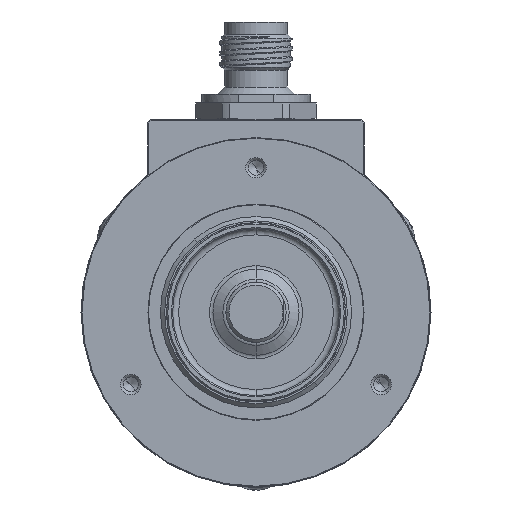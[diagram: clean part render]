
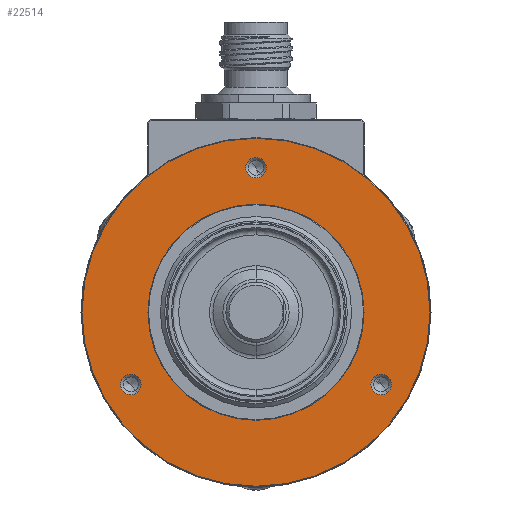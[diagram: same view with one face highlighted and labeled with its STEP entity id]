
A CAD part, front view. The second image highlights one B-rep face of the part: STEP entity #22514.
In plain terms, the highlighted planar face has unit normal (0, -1, 0).
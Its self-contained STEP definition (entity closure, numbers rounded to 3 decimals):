
#41 = CARTESIAN_POINT ( 'NONE',  ( 0., -7.5, 24. ) ) ;
#572 = CIRCLE ( 'NONE', #30910, 1.7 ) ;
#954 = DIRECTION ( 'NONE',  ( -0.643, 0., 0.766 ) ) ;
#1025 = EDGE_CURVE ( 'NONE', #28730, #26084, #25353, .T. ) ;
#1583 = DIRECTION ( 'NONE',  ( 0., 1., 0. ) ) ;
#3099 = DIRECTION ( 'NONE',  ( 0., -1., 0. ) ) ;
#3292 = DIRECTION ( 'NONE',  ( 0., -1., 0. ) ) ;
#4120 = EDGE_LOOP ( 'NONE', ( #11905, #29565 ) ) ;
#4205 = DIRECTION ( 'NONE',  ( -0.643, 0., 0.766 ) ) ;
#4651 = VERTEX_POINT ( 'NONE', #6739 ) ;
#4736 = FACE_BOUND ( 'NONE', #25406, .T. ) ;
#5064 = CARTESIAN_POINT ( 'NONE',  ( -19.692, -7.5, -13.302 ) ) ;
#5208 = CARTESIAN_POINT ( 'NONE',  ( 20.785, -7.5, -12. ) ) ;
#5748 = DIRECTION ( 'NONE',  ( -0.643, 0., 0.766 ) ) ;
#6048 = CIRCLE ( 'NONE', #7149, 28.9 ) ;
#6235 = CARTESIAN_POINT ( 'NONE',  ( 18.577, -7.5, -22.139 ) ) ;
#6351 = VERTEX_POINT ( 'NONE', #27760 ) ;
#6739 = CARTESIAN_POINT ( 'NONE',  ( -18.577, -7.5, 22.139 ) ) ;
#6769 = CARTESIAN_POINT ( 'NONE',  ( 19.692, -7.5, -10.698 ) ) ;
#7149 = AXIS2_PLACEMENT_3D ( 'NONE', #21054, #3292, #30852 ) ;
#7171 = AXIS2_PLACEMENT_3D ( 'NONE', #41, #25445, #14815 ) ;
#7371 = DIRECTION ( 'NONE',  ( 0.643, 0., -0.766 ) ) ;
#8036 = EDGE_CURVE ( 'NONE', #18024, #6351, #19904, .T. ) ;
#8047 = EDGE_CURVE ( 'NONE', #18236, #8886, #30813, .T. ) ;
#8330 = AXIS2_PLACEMENT_3D ( 'NONE', #14761, #29792, #7371 ) ;
#8886 = VERTEX_POINT ( 'NONE', #6769 ) ;
#8887 = EDGE_CURVE ( 'NONE', #19916, #25342, #572, .T. ) ;
#9149 = ORIENTED_EDGE ( 'NONE', *, *, #13639, .F. ) ;
#9559 = DIRECTION ( 'NONE',  ( 0., -1., 0. ) ) ;
#9626 = ORIENTED_EDGE ( 'NONE', *, *, #15494, .F. ) ;
#9841 = PLANE ( 'NONE',  #10589 ) ;
#10589 = AXIS2_PLACEMENT_3D ( 'NONE', #12769, #32411, #15415 ) ;
#11295 = CIRCLE ( 'NONE', #21263, 28.9 ) ;
#11426 = ORIENTED_EDGE ( 'NONE', *, *, #8047, .F. ) ;
#11905 = ORIENTED_EDGE ( 'NONE', *, *, #8036, .F. ) ;
#12168 = DIRECTION ( 'NONE',  ( 0.643, 0., -0.766 ) ) ;
#12769 = CARTESIAN_POINT ( 'NONE',  ( 22.215, -7.5, 18.641 ) ) ;
#13316 = DIRECTION ( 'NONE',  ( 0., 1., 0. ) ) ;
#13409 = DIRECTION ( 'NONE',  ( 0.643, 0., -0.766 ) ) ;
#13639 = EDGE_CURVE ( 'NONE', #8886, #18236, #15365, .T. ) ;
#13971 = EDGE_LOOP ( 'NONE', ( #11426, #9149 ) ) ;
#14198 = CARTESIAN_POINT ( 'NONE',  ( -1.093, -7.5, 25.302 ) ) ;
#14318 = AXIS2_PLACEMENT_3D ( 'NONE', #29538, #3099, #17959 ) ;
#14761 = CARTESIAN_POINT ( 'NONE',  ( -20.785, -7.5, -12. ) ) ;
#14815 = DIRECTION ( 'NONE',  ( 0.643, 0., -0.766 ) ) ;
#15295 = EDGE_CURVE ( 'NONE', #4651, #17832, #6048, .T. ) ;
#15365 = CIRCLE ( 'NONE', #14318, 1.7 ) ;
#15415 = DIRECTION ( 'NONE',  ( -0.643, 0., 0.766 ) ) ;
#15469 = CARTESIAN_POINT ( 'NONE',  ( 0., -7.5, 0. ) ) ;
#15494 = EDGE_CURVE ( 'NONE', #25342, #19916, #16578, .T. ) ;
#15623 = DIRECTION ( 'NONE',  ( 0.643, 0., -0.766 ) ) ;
#16578 = CIRCLE ( 'NONE', #7171, 1.7 ) ;
#16893 = EDGE_CURVE ( 'NONE', #6351, #18024, #18088, .T. ) ;
#17244 = FACE_BOUND ( 'NONE', #13971, .T. ) ;
#17406 = FACE_BOUND ( 'NONE', #30455, .T. ) ;
#17832 = VERTEX_POINT ( 'NONE', #6235 ) ;
#17959 = DIRECTION ( 'NONE',  ( 0.643, 0., -0.766 ) ) ;
#18024 = VERTEX_POINT ( 'NONE', #5064 ) ;
#18088 = CIRCLE ( 'NONE', #31613, 1.7 ) ;
#18236 = VERTEX_POINT ( 'NONE', #29277 ) ;
#18384 = CARTESIAN_POINT ( 'NONE',  ( 0., -7.5, 0. ) ) ;
#18460 = CARTESIAN_POINT ( 'NONE',  ( -11.377, -7.5, 13.559 ) ) ;
#18576 = CARTESIAN_POINT ( 'NONE',  ( -20.785, -7.5, -12. ) ) ;
#19379 = ORIENTED_EDGE ( 'NONE', *, *, #15295, .T. ) ;
#19904 = CIRCLE ( 'NONE', #8330, 1.7 ) ;
#19916 = VERTEX_POINT ( 'NONE', #14198 ) ;
#20368 = FACE_BOUND ( 'NONE', #4120, .T. ) ;
#20443 = EDGE_LOOP ( 'NONE', ( #19379, #21746 ) ) ;
#21054 = CARTESIAN_POINT ( 'NONE',  ( 0., -7.5, 0. ) ) ;
#21263 = AXIS2_PLACEMENT_3D ( 'NONE', #18384, #28302, #954 ) ;
#21551 = CARTESIAN_POINT ( 'NONE',  ( 0., -7.5, 24. ) ) ;
#21746 = ORIENTED_EDGE ( 'NONE', *, *, #31247, .T. ) ;
#21801 = CARTESIAN_POINT ( 'NONE',  ( 0., -7.5, 0. ) ) ;
#22463 = ORIENTED_EDGE ( 'NONE', *, *, #8887, .F. ) ;
#22514 = ADVANCED_FACE ( 'NONE', ( #20368, #17406, #17244, #27355, #4736 ), #9841, .F. ) ;
#23169 = DIRECTION ( 'NONE',  ( 0., -1., 0. ) ) ;
#23274 = DIRECTION ( 'NONE',  ( 0., -1., 0. ) ) ;
#23284 = AXIS2_PLACEMENT_3D ( 'NONE', #15469, #13316, #5748 ) ;
#24055 = AXIS2_PLACEMENT_3D ( 'NONE', #5208, #23274, #13409 ) ;
#25342 = VERTEX_POINT ( 'NONE', #31978 ) ;
#25353 = CIRCLE ( 'NONE', #23284, 17.7 ) ;
#25406 = EDGE_LOOP ( 'NONE', ( #29053, #31034 ) ) ;
#25445 = DIRECTION ( 'NONE',  ( 0., -1., 0. ) ) ;
#26084 = VERTEX_POINT ( 'NONE', #28161 ) ;
#26990 = AXIS2_PLACEMENT_3D ( 'NONE', #21801, #1583, #4205 ) ;
#27355 = FACE_OUTER_BOUND ( 'NONE', #20443, .T. ) ;
#27760 = CARTESIAN_POINT ( 'NONE',  ( -21.877, -7.5, -10.698 ) ) ;
#27999 = CIRCLE ( 'NONE', #26990, 17.7 ) ;
#28161 = CARTESIAN_POINT ( 'NONE',  ( 11.377, -7.5, -13.559 ) ) ;
#28302 = DIRECTION ( 'NONE',  ( 0., -1., 0. ) ) ;
#28730 = VERTEX_POINT ( 'NONE', #18460 ) ;
#29053 = ORIENTED_EDGE ( 'NONE', *, *, #1025, .T. ) ;
#29277 = CARTESIAN_POINT ( 'NONE',  ( 21.877, -7.5, -13.302 ) ) ;
#29538 = CARTESIAN_POINT ( 'NONE',  ( 20.785, -7.5, -12. ) ) ;
#29565 = ORIENTED_EDGE ( 'NONE', *, *, #16893, .F. ) ;
#29792 = DIRECTION ( 'NONE',  ( 0., -1., 0. ) ) ;
#30455 = EDGE_LOOP ( 'NONE', ( #9626, #22463 ) ) ;
#30813 = CIRCLE ( 'NONE', #24055, 1.7 ) ;
#30852 = DIRECTION ( 'NONE',  ( -0.643, 0., 0.766 ) ) ;
#30910 = AXIS2_PLACEMENT_3D ( 'NONE', #21551, #9559, #12168 ) ;
#31034 = ORIENTED_EDGE ( 'NONE', *, *, #31288, .T. ) ;
#31247 = EDGE_CURVE ( 'NONE', #17832, #4651, #11295, .T. ) ;
#31288 = EDGE_CURVE ( 'NONE', #26084, #28730, #27999, .T. ) ;
#31613 = AXIS2_PLACEMENT_3D ( 'NONE', #18576, #23169, #15623 ) ;
#31978 = CARTESIAN_POINT ( 'NONE',  ( 1.093, -7.5, 22.698 ) ) ;
#32411 = DIRECTION ( 'NONE',  ( 0., 1., 0. ) ) ;
